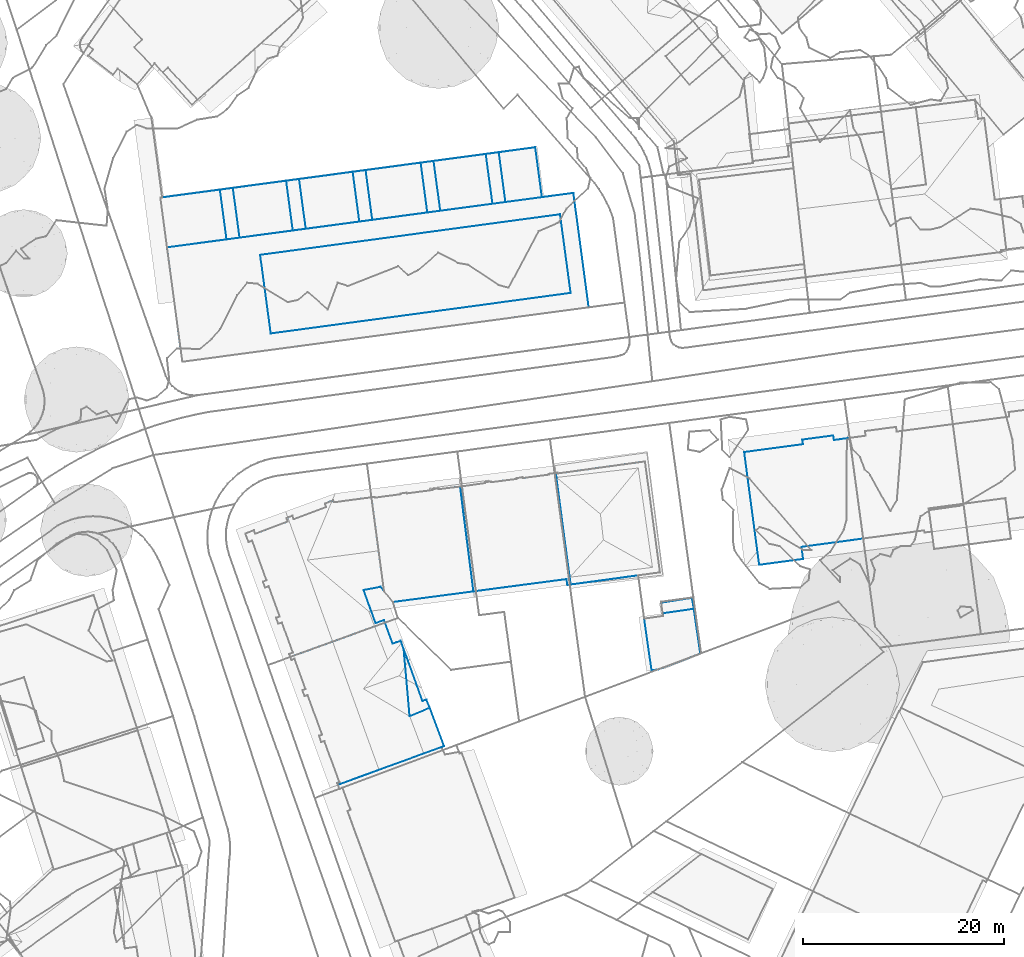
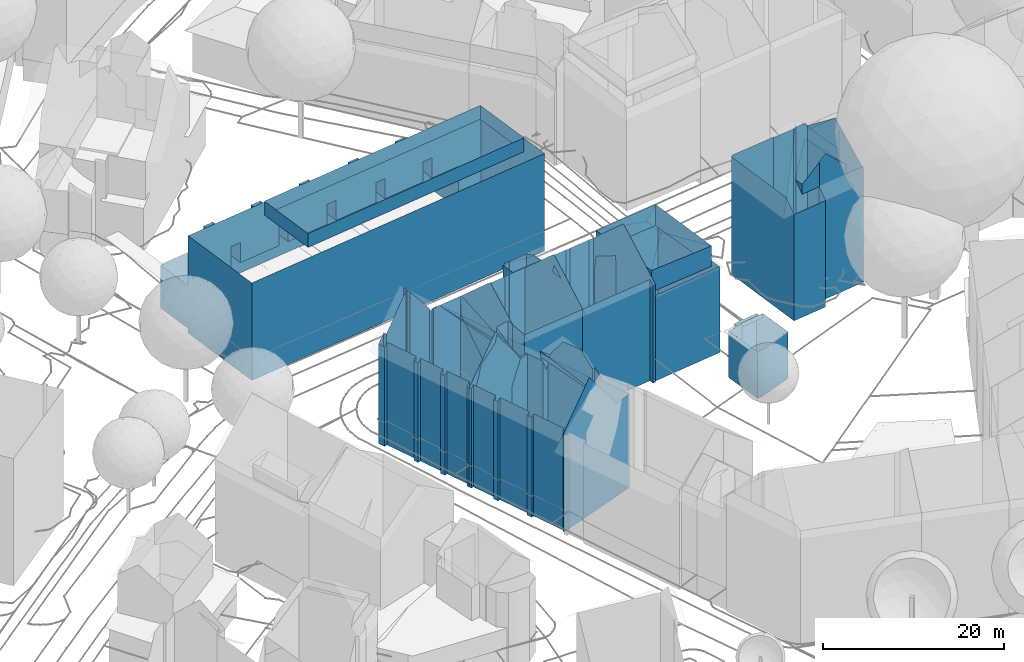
# Not in any storey, part 47 of 477: 8 walls.
"""IFC4 building model written with IfcOpenShell, lengths in metres."""

from ifc_helpers import new_model, si_unit, frame, origin_with_axes, place, context, subcontext, project, spatial, polygons, element, save


model = new_model("IFC4")

# Units and contexts
model_context = context("Model", 3, precision=1e-05, world=origin_with_axes())
body_context = subcontext(model_context, "Body", "Model", "MODEL_VIEW")
ifc_project = project(units=[si_unit("AREAUNIT", "SQUARE_METRE"), si_unit("LENGTHUNIT", "METRE")], contexts=[model_context])

# Sites, building
site_1_placement = place(None, origin_with_axes())
site_1 = spatial("IfcSite", under=ifc_project, at=site_1_placement, Name="Topoexport Site")
site_2_placement = place(site_1_placement, origin_with_axes())
site_2 = spatial("IfcSite", under=site_1, at=site_2_placement, Name="TPX_BUILDINGS")
building_1_placement = place(site_2_placement, frame((511.1767320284, 156.3465160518, 499.6435), z_axis=(0.0, 0.0, 1.0), x_axis=(1.0, 0.0, 0.0)))
building_1 = spatial("IfcBuilding", under=site_2, at=building_1_placement, Name="Building 19", CompositionType="ELEMENT")

# Wall
wall_1_placement = place(None, frame((511.1767320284, 156.3465160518, 499.6435), z_axis=(0.0, 0.0, 1.0), x_axis=(1.0, 0.0, 0.0)))
element("IfcWall", 1, at=wall_1_placement, inside=building_1, Name="Wall 0", context=body_context, shape_type="Tessellation", body=[
    polygons([(4.7589999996, 2.067400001, 0.0), (4.936999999, 0.9834000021, 5.7095), (4.7589999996, 2.067400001, 5.7095), (1.6939999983, 1.5859000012, 0.0), (1.6939999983, 1.5859000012, 5.7095), (5.5879999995, -3.4745999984, 0.0), (1.3649999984, -5.058600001, 6.2974), (5.5879999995, -3.4745999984, 6.2974), (4.936999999, 0.9834000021, 6.2974), (4.936999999, 0.9834000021, 0.0), (0.0, 0.0, 0.0), (1.8829999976, 0.2714999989, 6.2974), (0.0, 0.0, 6.2974), (0.7419999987, -5.1475000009, 0.0), (0.7419999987, -5.1475000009, 6.2974), (1.3649999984, -5.058600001, 0.0), (1.8449999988, 0.5322000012, 5.7095), (1.8449999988, 0.5322000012, 6.2974), (1.8829999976, 0.2714999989, 0.0), (1.8469999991, 0.5243999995, 0.0), (1.8449999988, 0.5322000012, 0.0)], [[[3, 2, 1]], [[5, 3, 4]], [[8, 7, 6]], [[2, 9, 8]], [[2, 6, 10]], [[13, 12, 11]], [[15, 13, 14]], [[7, 15, 16]], [[18, 9, 17]], [[12, 17, 19]], [[17, 12, 18]], [[20, 19, 17]], [[17, 21, 20]], [[5, 21, 17]], [[4, 21, 5]], [[2, 10, 1]], [[3, 1, 4]], [[7, 16, 6]], [[8, 6, 2]], [[12, 19, 11]], [[13, 11, 14]], [[15, 14, 16]], [[9, 2, 17]]]),
])

# Building
building_2_placement = place(site_2_placement, frame((521.1327320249, 172.9256160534, 499.9965), z_axis=(0.0, 0.0, 1.0), x_axis=(1.0, 0.0, 0.0)))
building_2 = spatial("IfcBuilding", under=site_2, at=building_2_placement, Name="Building 36", CompositionType="ELEMENT")

# Wall
wall_2_placement = place(None, frame((521.1327320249, 172.9256160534, 499.9965), z_axis=(0.0, 0.0, 1.0), x_axis=(1.0, 0.0, 0.0)))
element("IfcWall", 2, at=wall_2_placement, inside=building_2, Name="Wall 0", context=body_context, shape_type="Tessellation", body=[
    polygons([(9.4190000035, -8.933600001, 15.6275), (9.4190000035, -8.933600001, 16.8814), (9.2630000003, -7.7666000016, 16.8814), (3.3460000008, -9.8164000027, 15.5525), (3.1810000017, -8.5811000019, 16.8814), (3.3460000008, -9.8164000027, 16.8814), (5.7130000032, -9.5020000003, 18.8402), (5.7130000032, -9.5020000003, 15.5515), (5.8660000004, -10.6377000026, 0.0), (1.4970000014, -11.2217000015, 14.3306), (5.8660000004, -10.6377000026, 14.3306), (8.870000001, 1.6561999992, 15.4745), (8.9310000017, 1.2010999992, 0.0), (8.9310000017, 1.2010999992, 3.9956), (8.870000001, 1.6561999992, 0.0), (5.7780000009, 1.2412, 0.0), (5.7780000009, 1.2412, 15.4765), (5.7040000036, -9.4326000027, 15.6235), (5.7040000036, -9.4326000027, 18.8402), (5.7130000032, -9.5020000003, 0.0), (5.7040000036, -9.4326000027, 0.0), (1.4970000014, -11.2217000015, 0.0), (1.325000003, -9.9365000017, 0.0), (0.0, 0.0, 0.0), (0.0, 0.0, 15.8225), (1.3120000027, -9.8368999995, 15.8195), (10.4960000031, 1.4111000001, 15.4685), (10.4960000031, 1.4111000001, 15.5445), (10.0990000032, 1.3583999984, 15.9835), (8.9310000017, 1.2011999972, 15.9845), (10.4960000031, 1.4111000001, 0.0), (10.0990000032, 1.3583999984, 0.0), (5.8390000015, 0.7850999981, 15.9875), (0.1640000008, 0.0223999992, 15.9915), (5.8390000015, 0.7850999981, 0.0), (11.8110000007, -8.3280999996, 15.5305), (11.1740000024, -3.6064999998, 0.0), (11.8490000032, -8.6064999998, 15.5295), (11.8490000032, -8.6064999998, 0.0), (10.5090000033, 1.3134999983, 15.5445), (11.1740000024, -3.6064999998, 19.3361), (11.7590000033, -8.6192000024, 15.6295), (6.6170000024, -9.3095999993, 19.5961), (6.6170000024, -9.3095999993, 0.0)], [[[3, 2, 1]], [[6, 5, 4]], [[8, 7, 4]], [[6, 4, 7]], [[11, 10, 9]], [[14, 13, 12]], [[12, 13, 15]], [[17, 12, 16]], [[16, 12, 15]], [[19, 7, 18]], [[18, 7, 8]], [[8, 11, 20]], [[20, 21, 18]], [[20, 11, 9]], [[20, 18, 8]], [[23, 22, 10]], [[25, 24, 23]], [[10, 26, 25]], [[10, 25, 23]], [[29, 28, 27]], [[27, 30, 29]], [[14, 30, 31]], [[14, 32, 13]], [[32, 14, 31]], [[30, 27, 31]], [[33, 24, 25]], [[25, 34, 33]], [[33, 35, 24]], [[27, 36, 31]], [[38, 37, 31]], [[38, 39, 37]], [[27, 28, 40]], [[40, 41, 36]], [[38, 31, 36]], [[36, 27, 40]], [[1, 38, 42]], [[1, 39, 38]], [[1, 2, 18]], [[18, 2, 43]], [[18, 43, 19]], [[1, 18, 44]], [[18, 21, 44]], [[1, 44, 39]], [[10, 22, 9]], [[30, 14, 12]], [[33, 16, 35]], [[17, 16, 33]]]),
])

# Building
building_3_placement = place(site_2_placement, frame((463.0307320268, 198.249816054, 500.4205), z_axis=(0.0, 0.0, 1.0), x_axis=(1.0, 0.0, 0.0)))
building_3 = spatial("IfcBuilding", under=site_2, at=building_3_placement, Name="Building 89", CompositionType="ELEMENT")

# Wall
wall_3_placement = place(None, frame((463.0307320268, 198.249816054, 500.4205), z_axis=(0.0, 0.0, 1.0), x_axis=(1.0, 0.0, 0.0)))
element("IfcWall", 3, at=wall_3_placement, inside=building_3, Name="Wall 0", context=body_context, shape_type="Tessellation", body=[
    polygons([(42.6259999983, -10.9238000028, -0.615), (2.1889999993, -16.3369000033, 12.5258), (42.6259999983, -10.9238000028, 12.5258), (41.1009999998, 0.4667999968, -0.6149), (41.1009999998, 0.4667999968, 12.5258), (37.300999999, 5.0058999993, 0.0), (37.9649999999, 0.0468999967, 5.7815), (37.300999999, 5.0058999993, 5.7815), (6.5870000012, -4.1562000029, -0.041), (5.9239999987, 0.7949000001, -0.041), (6.5870000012, -4.1562000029, 0.0), (6.5870000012, -4.1562000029, 5.7815), (5.9239999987, 0.7949000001, 8.4932), (6.5870000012, -4.1562000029, 8.4932), (7.2129999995, 0.9677999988, 5.7815), (7.8759999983, -3.9834000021, 5.7815), (7.2129999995, 0.9677999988, 8.4932), (7.2129999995, 0.9677999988, -0.041), (7.8759999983, -3.9834000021, 0.0), (7.2129999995, 0.9677999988, 0.0), (13.1790000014, -3.2734000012, -0.0108), (12.5159999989, 1.6796999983, 0.0002), (13.1790000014, -3.2734000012, 0.0002), (13.1790000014, -3.2734000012, 5.7815), (12.5159999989, 1.6796999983, 5.7815), (13.1790000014, -3.2734000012, 8.4932), (13.8040000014, 1.8524999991, 5.7815), (14.4679999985, -3.1006000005, 8.4932), (13.8040000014, 1.8524999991, 8.4932), (13.8040000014, 1.8524999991, -0.011), (14.4679999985, -3.1006000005, -0.011), (13.8040000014, 1.8524999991, 0.0), (40.8319999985, -9.4853000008, -0.6539), (10.9860000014, -13.5215000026, -0.6149), (40.8319999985, -9.4853000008, -0.6149), (40.8319999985, -9.4853000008, 12.5258), (10.9860000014, -13.5215000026, 14.3936), (40.8319999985, -9.4853000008, 14.3936), (39.7729999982, -1.6601999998, -0.6539), (39.7729999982, -1.6601999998, -0.6149), (39.7729999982, -1.6601999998, 12.5258), (39.7729999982, -1.6601999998, 14.3936), (9.9279999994, -5.6982000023, 12.5258), (9.9279999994, -5.6982000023, 14.3936), (9.9279999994, -5.6983000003, -0.6539), (9.9279999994, -5.6983000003, -0.6149), (10.9860000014, -13.5215000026, -0.6539), (10.9860000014, -13.5215000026, 12.5258), (26.5670000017, -1.4805000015, 5.7815), (25.9030000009, 3.4755999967, 8.4932), (26.5670000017, -1.4805000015, 8.4932), (26.5670000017, -1.4805000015, -0.056), (25.9030000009, 3.4755999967, -0.056), (26.5670000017, -1.4805000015, 0.0), (27.1909999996, 3.6483999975, 5.7815), (27.8550000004, -1.3066000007, 5.7815), (27.1909999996, 3.6483999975, 8.4932), (27.1909999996, 3.6483999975, -0.056), (27.8550000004, -1.3066000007, 0.0), (27.1909999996, 3.6483999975, 0.0), (33.0500000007, -0.6113000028, 5.7815), (32.3859999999, 4.3456999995, 8.4932), (33.0500000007, -0.6113000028, 8.4932), (33.6750000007, 4.5185999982, 5.7815), (34.3390000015, -0.4394000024, 5.7815), (33.6750000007, 4.5185999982, 8.4932), (19.8000000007, -2.3857000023, 5.7815), (19.1369999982, 2.5683999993, 8.4932), (19.8000000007, -2.3857000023, 8.4932), (19.8000000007, -2.3857000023, -0.046), (19.1369999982, 2.5683999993, -0.046), (19.8000000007, -2.3857000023, 0.0), (20.425999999, 2.7412, 5.7815), (21.0890000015, -2.2129000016, 5.7815), (20.425999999, 2.7412, 8.4932), (20.425999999, 2.7412, -0.046), (21.0890000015, -2.2129000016, 0.0), (20.425999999, 2.7412, 0.0), (2.1889999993, -16.3369000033, -0.6149), (0.6629999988, -4.9492000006, 5.7815), (0.6629999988, -4.9492000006, -0.6149), (0.6629999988, -4.9492000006, 0.0), (0.6629999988, -4.9492000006, 12.5258), (0.0, 0.0, 0.0), (0.0, 0.0, 5.7815), (7.8759999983, -3.9834000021, 8.4932), (14.4679999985, -3.1006000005, 5.7815), (7.8759999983, -3.9834000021, -0.041), (14.4679999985, -3.1006000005, 0.0), (21.0890000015, -2.2129000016, 8.4932), (27.8550000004, -1.3066000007, 8.4932), (34.3390000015, -0.4394000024, 8.4932), (21.0890000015, -2.2129000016, -0.046), (27.8550000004, -1.3066000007, -0.056), (37.9649999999, 0.0468999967, 0.0), (5.9239999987, 0.7949000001, 0.0), (5.9239999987, 0.7949000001, 5.7815), (12.5159999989, 1.6796999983, 8.4932), (19.1369999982, 2.5683999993, 5.7815), (25.9030000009, 3.4755999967, 0.0), (25.9030000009, 3.4755999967, 5.7815), (32.3859999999, 4.3456999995, 5.7815), (19.1369999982, 2.5683999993, 0.0), (12.5159999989, 1.6796999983, -0.011)], [[[3, 2, 1]], [[5, 3, 4]], [[8, 7, 6]], [[11, 10, 9]], [[14, 13, 12]], [[17, 16, 15]], [[20, 19, 18]], [[23, 22, 21]], [[26, 25, 24]], [[29, 28, 27]], [[32, 31, 30]], [[35, 34, 33]], [[38, 37, 36]], [[40, 35, 39]], [[42, 38, 41]], [[44, 42, 43]], [[46, 40, 45]], [[34, 46, 47]], [[37, 44, 48]], [[51, 50, 49]], [[54, 53, 52]], [[57, 56, 55]], [[60, 59, 58]], [[63, 62, 61]], [[66, 65, 64]], [[69, 68, 67]], [[72, 71, 70]], [[75, 74, 73]], [[78, 77, 76]], [[80, 79, 2]], [[79, 82, 81]], [[80, 82, 79]], [[2, 83, 80]], [[85, 84, 82]], [[82, 80, 85]], [[83, 14, 80]], [[14, 83, 86]], [[14, 12, 80]], [[83, 26, 86]], [[28, 26, 83]], [[69, 28, 83]], [[67, 87, 28]], [[16, 86, 24]], [[28, 69, 67]], [[83, 5, 69]], [[82, 11, 9]], [[81, 9, 88]], [[9, 81, 82]], [[81, 88, 21]], [[19, 21, 88]], [[31, 89, 72]], [[81, 31, 70]], [[21, 31, 81]], [[23, 21, 19]], [[70, 31, 72]], [[90, 51, 74]], [[91, 51, 5]], [[51, 49, 74]], [[51, 90, 5]], [[5, 92, 63]], [[92, 5, 7]], [[63, 61, 91]], [[61, 56, 91]], [[5, 4, 7]], [[5, 63, 91]], [[90, 69, 5]], [[7, 65, 92]], [[77, 54, 93]], [[81, 70, 93]], [[81, 93, 52]], [[59, 95, 94]], [[95, 81, 94]], [[81, 95, 4]], [[94, 81, 52]], [[7, 4, 95]], [[17, 15, 13]], [[97, 96, 85]], [[15, 20, 97]], [[29, 25, 98]], [[27, 99, 32]], [[32, 22, 27]], [[25, 22, 15]], [[10, 20, 18]], [[32, 30, 22]], [[73, 78, 99]], [[99, 68, 73]], [[101, 100, 73]], [[57, 55, 50]], [[66, 64, 62]], [[55, 102, 60]], [[55, 60, 101]], [[78, 71, 103]], [[53, 60, 58]], [[64, 8, 6]], [[60, 102, 6]], [[102, 64, 6]], [[2, 79, 1]], [[3, 1, 4]], [[7, 95, 6]], [[96, 10, 11]], [[13, 97, 12]], [[86, 16, 17]], [[19, 88, 18]], [[22, 104, 21]], [[98, 25, 26]], [[28, 87, 27]], [[89, 31, 32]], [[34, 47, 33]], [[37, 48, 36]], [[35, 33, 39]], [[38, 36, 41]], [[42, 41, 43]], [[40, 39, 45]], [[46, 45, 47]], [[44, 43, 48]], [[50, 101, 49]], [[100, 53, 54]], [[91, 56, 57]], [[59, 94, 58]], [[62, 102, 61]], [[92, 65, 66]], [[68, 99, 67]], [[103, 71, 72]], [[90, 74, 75]], [[77, 93, 76]], [[86, 26, 24]], [[54, 52, 93]], [[15, 97, 13]], [[96, 84, 85]], [[20, 96, 97]], [[27, 25, 29]], [[99, 103, 32]], [[22, 25, 27]], [[22, 20, 15]], [[96, 20, 10]], [[30, 104, 22]], [[78, 103, 99]], [[68, 75, 73]], [[100, 78, 73]], [[55, 101, 50]], [[64, 102, 62]], [[60, 100, 101]], [[76, 71, 78]], [[100, 60, 53]]]),
])

# Building
building_4_placement = place(site_2_placement, frame((475.9607320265, 152.5359160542, 499.4976), z_axis=(0.0, 0.0, 1.0), x_axis=(1.0, 0.0, 0.0)))
building_4 = spatial("IfcBuilding", under=site_2, at=building_4_placement, Name="Building 127", CompositionType="ELEMENT")

# Wall
wall_4_placement = place(None, frame((475.9607320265, 152.5359160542, 499.4976), z_axis=(0.0, 0.0, 1.0), x_axis=(1.0, 0.0, 0.0)))
element("IfcWall", 4, at=wall_4_placement, inside=building_4, Name="Wall 0", context=body_context, shape_type="Tessellation", body=[
    polygons([(1.7280000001, -3.7851000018, 0.0), (3.1640000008, -7.7363000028, 13.7726), (3.1640000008, -7.7363000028, -0.0001), (2.8570000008, -7.8486000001, -0.0001), (2.8570000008, -7.8486000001, 13.3947), (3.0800000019, -8.4716000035, 13.3907), (3.0800000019, -8.4716000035, -0.0001), (3.3900000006, -8.3584000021, -0.0001), (3.3900000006, -8.3584000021, 13.7726), (4.8859999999, -12.4658000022, -0.0001), (4.8859999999, -12.4658000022, 13.7726), (4.675999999, -12.5449000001, 13.5136), (4.675999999, -12.5449000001, -0.0001), (4.7390000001, -12.7187000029, 6.7563), (4.7390000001, -12.7187000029, -0.0001), (4.7390000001, -12.7187000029, 13.5126), (0.1050000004, -0.2890000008, 0.0), (0.0529999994, -0.1474000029, 5.6504), (0.1050000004, -0.2890000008, 13.3947), (0.0, 0.0, 0.0), (0.4149999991, -0.1757000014, 13.7766), (0.4149999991, -0.1757000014, 0.0), (1.5159999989, -3.2021000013, 0.0), (1.5159999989, -3.2021000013, 13.7756), (1.2060000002, -3.3154000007, 13.3937), (1.2060000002, -3.3154000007, 0.0), (1.4180000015, -3.8984000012, 13.3937), (1.4180000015, -3.8984000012, 0.0), (1.7280000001, -3.7851000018, 13.7756), (9.4239999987, 3.4130999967, 0.0), (9.7309999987, 2.5634999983, 5.8984), (9.4239999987, 3.4130999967, 12.5967), (10.1799999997, 1.3242999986, 12.5807), (10.1799999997, 1.3242999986, 0.0), (11.870000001, -5.8955000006, -0.0001), (11.2809999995, 0.8017999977, 0.0669), (11.2809999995, 0.8017999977, 0.0), (11.870000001, -5.8955000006, 0.0669), (13.8729999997, -5.0605000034, 0.0669), (15.3020000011, -8.875, 12.6027), (13.8729999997, -5.0605000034, 12.6027), (13.8729999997, -5.0605000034, -0.0001), (15.3020000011, -8.875, -0.0001), (13.5419999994, -4.2285000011, 0.0669), (13.5419999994, -4.2285000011, 13.9276), (13.8729999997, -5.0605000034, 12.9307), (7.2580000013, -3.1503000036, 17.7112), (11.870000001, -5.8955000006, 12.7847), (11.870000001, -5.8955000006, 12.5307), (7.2580000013, -3.1503000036, 16.9023), (8.8300000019, -1.2646000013, 14.1886), (11.0599999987, 1.4120999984, 13.0807), (10.6689999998, 0.9423999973, 12.5767), (11.0599999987, 1.4120999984, 12.5957), (9.6680000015, -0.2578000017, 12.5737), (10.5769999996, 1.4677999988, 12.5797), (10.5769999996, 1.4677999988, 0.0), (10.9860000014, 1.6162, 12.5957), (10.9860000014, 1.6162, 0.0), (13.2010000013, -4.3515000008, 13.9976), (13.1519999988, -4.3691000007, 13.9966), (13.1519999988, -4.3691000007, 0.0669), (13.2010000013, -4.3515000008, 0.0669), (8.8150000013, -11.2343000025, 18.5302), (10.5179999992, -10.6123000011, 16.1894), (15.0579999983, -8.9638000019, 12.6027), (13.2730000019, -9.6113000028, 12.5027), (15.0579999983, -8.9638000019, -0.0001), (8.8150000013, -11.2343000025, -0.0001), (10.5179999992, -10.6123000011, -0.0001), (13.2730000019, -9.6113000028, -0.0001), (1.7479999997, 0.6328999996, 15.5465), (0.0, 0.0, 13.3957), (4.2050000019, 1.5224999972, 18.5252), (4.2050000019, 1.5224999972, 0.0), (4.4210000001, 1.6005999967, 18.2632), (1.7479999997, 0.6327999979, 0.0), (4.4210000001, 1.6005999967, 0.0), (8.3819999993, 3.0361999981, 12.5987), (6.4640000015, 2.3408999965, 15.4795), (6.4640000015, 2.3408999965, 0.0), (8.3819999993, 3.0361999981, 0.0), (11.1600000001, 1.1338, 13.5437), (11.7259999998, -0.4287, 0.0669), (11.7259999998, -0.4287, 15.7334), (12.5850000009, -2.8017000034, 15.8534), (12.5850000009, -2.8017000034, 0.0669), (13.1119999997, -4.2578000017, 14.1386)], [[[3, 2, 1]], [[5, 2, 4]], [[2, 3, 4]], [[5, 7, 6]], [[9, 7, 8]], [[11, 9, 10]], [[9, 8, 10]], [[11, 10, 12]], [[13, 12, 10]], [[15, 14, 13]], [[16, 13, 14]], [[19, 18, 17]], [[18, 20, 17]], [[22, 21, 17]], [[19, 17, 21]], [[24, 21, 23]], [[22, 23, 21]], [[25, 24, 23]], [[26, 25, 23]], [[28, 27, 25]], [[1, 29, 28]], [[29, 27, 28]], [[32, 31, 30]], [[33, 31, 32]], [[31, 33, 34]], [[31, 34, 30]], [[37, 36, 35]], [[38, 35, 36]], [[41, 40, 39]], [[39, 43, 42]], [[45, 41, 44]], [[46, 41, 45]], [[35, 38, 39]], [[39, 42, 35]], [[49, 48, 47]], [[47, 50, 49]], [[46, 48, 41]], [[47, 51, 50]], [[51, 47, 52]], [[52, 54, 53]], [[55, 51, 53]], [[53, 51, 52]], [[34, 33, 56]], [[56, 58, 57]], [[57, 58, 59]], [[57, 34, 56]], [[62, 61, 60]], [[62, 60, 45]], [[63, 62, 45]], [[44, 63, 45]], [[65, 64, 16]], [[43, 40, 66]], [[67, 65, 16]], [[67, 68, 66]], [[67, 16, 14]], [[14, 15, 69]], [[14, 69, 70]], [[66, 68, 43]], [[71, 67, 70]], [[71, 68, 67]], [[14, 70, 67]], [[20, 73, 72]], [[75, 72, 74]], [[76, 75, 74]], [[77, 20, 72]], [[72, 75, 77]], [[76, 78, 75]], [[81, 80, 79]], [[82, 79, 32]], [[78, 80, 81]], [[82, 32, 30]], [[82, 81, 79]], [[80, 78, 76]], [[52, 83, 54]], [[36, 54, 84]], [[58, 54, 59]], [[36, 37, 59]], [[54, 36, 59]], [[54, 83, 85]], [[87, 85, 86]], [[87, 86, 88]], [[87, 88, 61]], [[84, 85, 87]], [[62, 87, 61]], [[85, 84, 54]], [[29, 1, 2]], [[5, 4, 7]], [[6, 7, 9]], [[12, 13, 16]], [[73, 18, 19]], [[18, 73, 20]], [[28, 25, 26]], [[40, 43, 39]], [[41, 39, 44]], [[48, 49, 41]]]),
])

# Building
building_5_placement = place(site_2_placement, frame((502.3847320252, 170.8484160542, 499.6645), z_axis=(0.0, 0.0, 1.0), x_axis=(1.0, 0.0, 0.0)))
building_5 = spatial("IfcBuilding", under=site_2, at=building_5_placement, Name="Building 128", CompositionType="ELEMENT")

# Wall
wall_5_placement = place(None, frame((502.3847320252, 170.8484160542, 499.6645), z_axis=(0.0, 0.0, 1.0), x_axis=(1.0, 0.0, 0.0)))
element("IfcWall", 5, at=wall_5_placement, inside=building_5, Name="Wall 0", context=body_context, shape_type="Tessellation", body=[
    polygons([(8.1840000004, 0.5068999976, 11.5429), (9.6030000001, -9.3867000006, 14.3126), (8.1840000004, 0.5068999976, 14.3977), (9.1490000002, -9.4404000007, 11.5609), (9.6030000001, -9.3867000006, 11.5619), (1.3839999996, -10.3593000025, 11.5409), (1.3839999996, -10.3593000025, 14.4626), (7.1860000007, 0.3925999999, 11.5399), (0.0580000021, -0.4316000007, 14.3047), (0.0580000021, -0.4316000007, 11.5229), (9.9960000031, -7.1357000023, 11.5599), (8.8770000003, 1.1435999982, 11.5439), (10.3690000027, -9.8964000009, 0.0), (8.8770000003, 1.1435999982, 5.7615), (8.8770000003, 1.1435999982, 8.6522), (8.8770000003, 1.1435999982, 0.0), (10.3690000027, -9.8964000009, 5.7825), (10.3690000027, -9.8964000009, 2.8907), (0.1810000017, -0.0556000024, 11.5229), (0.1700000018, 0.0244999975, 11.5219), (0.1810000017, -0.0556000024, 5.7615), (0.1700000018, 0.0244999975, 0.0), (0.1810000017, -0.0556000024, 0.0), (0.0, 9.9998e-05, 8.6412), (0.0, 9.9998e-05, 11.5219), (0.0, 0.0, 0.0), (0.0, 0.0, 5.7605), (1.4840000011, -11.1054000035, 11.5429), (10.3690000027, -9.8964000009, 8.6732), (1.4840000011, -11.1054000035, 0.0), (8.0549999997, -10.2119000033, 11.5589), (8.0549999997, -10.2119000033, 0.0), (10.3690000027, -9.8964000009, 11.5649), (0.7130000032, -5.3320000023, 14.3827), (1.3839999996, -10.3593000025, 0.0), (0.7130000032, -5.3320000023, 0.0), (0.0580000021, -0.4316000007, 0.0), (2.6920000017, 0.2900999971, 11.5289), (2.6920000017, 0.2900999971, 0.0), (7.881000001, 1.0058999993, 11.5409), (7.881000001, 1.0058999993, 0.0)], [[[3, 2, 1]], [[5, 2, 4]], [[4, 7, 6]], [[7, 4, 2]], [[10, 9, 8]], [[8, 3, 1]], [[3, 8, 9]], [[13, 12, 11]], [[15, 13, 14]], [[16, 14, 13]], [[18, 11, 17]], [[21, 20, 19]], [[20, 23, 22]], [[25, 22, 24]], [[27, 22, 26]], [[25, 20, 22]], [[17, 29, 28]], [[18, 17, 30]], [[28, 29, 31]], [[17, 28, 30]], [[13, 18, 32]], [[32, 18, 30]], [[29, 33, 31]], [[6, 7, 34]], [[30, 6, 35]], [[6, 30, 28]], [[36, 35, 6]], [[6, 34, 36]], [[34, 27, 36]], [[10, 25, 24]], [[9, 10, 34]], [[27, 37, 36]], [[34, 24, 27]], [[27, 26, 37]], [[34, 10, 24]], [[38, 21, 19]], [[39, 21, 14]], [[39, 23, 21]], [[40, 12, 15]], [[38, 40, 15]], [[16, 41, 14]], [[41, 39, 14]], [[38, 15, 14]], [[14, 21, 38]], [[2, 5, 1]], [[12, 13, 15]], [[33, 29, 11]], [[29, 17, 11]], [[13, 11, 18]], [[21, 23, 20]], [[27, 24, 22]]]),
])

# Building
building_6_placement = place(site_2_placement, frame((484.0377320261, 168.4207160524, 499.5076), z_axis=(0.0, 0.0, 1.0), x_axis=(1.0, 0.0, 0.0)))
building_6 = spatial("IfcBuilding", under=site_2, at=building_6_placement, Name="Building 129", CompositionType="ELEMENT")

# Wall
wall_6_placement = place(None, frame((484.0377320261, 168.4207160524, 499.5076), z_axis=(0.0, 0.0, 1.0), x_axis=(1.0, 0.0, 0.0)))
element("IfcWall", 6, at=wall_6_placement, inside=building_6, Name="Wall 0", context=body_context, shape_type="Tessellation", body=[
    polygons([(2.1359999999, -10.4189000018, 0.0), (1.251000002, -9.3192999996, 0.0), (2.1359999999, -10.4189000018, 13.6186), (3.5100000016, 0.4648000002, 13.2597), (3.5100000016, 0.4648000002, 0.0), (3.5210000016, 0.3856999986, 0.0), (3.5210000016, 0.3856999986, 13.3317), (2.8850000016, 0.3817999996, 13.2617), (2.8850000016, 0.3817999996, 0.0), (2.8949999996, 0.3027000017, 13.3337), (2.8949999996, 0.3027000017, 0.0), (1.6170000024, 0.1338, 13.3377), (0.3379999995, -0.0361000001, 13.3417), (0.3379999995, -0.0361000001, 0.0), (0.3280000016, 0.0430000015, 13.2687), (0.3280000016, 0.0430000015, 0.0), (0.0, 0.0, 9.952), (0.1440000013, 0.0185999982, 13.2687), (0.0, 0.0, 13.2697), (0.0, 0.0, 3.3177), (0.0, 0.0, 6.6353), (0.0, 0.0, 0.0), (9.3680000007, -1.5967000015, 0.3679), (9.1700000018, -1.6893999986, 0.3679), (9.3680000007, -1.5967000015, 15.7974), (6.0760000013, 0.7236000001, 0.0), (6.0659999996, 0.8027000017, 15.0785), (6.068, 0.7842000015, 15.0875), (6.0, -1.1035000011, 14.9625), (6.0, -1.1035000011, 15.0195), (9.1700000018, -1.6893999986, 15.8574), (5.9869999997, -0.996100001, 14.8635), (5.7919999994, 0.6856000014, 13.3257), (5.7919999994, 0.6856000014, 15.0105), (10.1469999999, -9.3623000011, 0.0), (3.6469999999, -10.2197000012, 13.6206), (10.1469999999, -9.3623000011, 13.6296), (3.6469999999, -10.2197000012, 0.0), (6.0760000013, 0.7236000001, 15.0875), (0.0170000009, -0.1240000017, 13.3837), (1.251000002, -9.3192999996, 14.6436), (0.7120000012, -5.3027000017, 18.0912), (0.7120000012, -5.3027000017, 0.0), (8.819000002, 1.0683999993, 0.3679), (6.7010000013, 0.8066000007, 0.0), (8.819000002, 1.0683999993, 0.0), (6.7010000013, 0.8066000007, 15.1145), (9.0109999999, 1.0918000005, 0.3679), (9.0109999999, 1.0918000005, 15.1255), (6.6909999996, 0.8856999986, 15.0795), (6.6909999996, 0.8856999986, 0.0), (6.0659999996, 0.8027000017, 0.0), (9.2120000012, -0.4219000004, 0.3679), (9.2309999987, -0.5683999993, 0.3679), (9.2120000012, -0.4219000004, 15.7874), (9.8790000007, -7.2606999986, 15.4335), (9.4840000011, -4.1561999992, 18.0972), (9.1400000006, -1.4560000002, 0.0), (9.4840000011, -4.1561999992, 0.0), (9.8790000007, -7.2606999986, 0.0)], [[[3, 2, 1]], [[6, 5, 4]], [[4, 7, 6]], [[9, 8, 5]], [[9, 11, 10]], [[10, 8, 9]], [[10, 11, 12]], [[12, 11, 13]], [[13, 11, 14]], [[16, 15, 13]], [[13, 14, 16]], [[19, 18, 17]], [[21, 18, 20]], [[15, 16, 18]], [[18, 16, 22]], [[25, 24, 23]], [[28, 27, 26]], [[31, 30, 29]], [[29, 30, 32]], [[32, 34, 33]], [[34, 32, 30]], [[37, 36, 35]], [[35, 36, 38]], [[38, 3, 1]], [[3, 38, 36]], [[6, 7, 26]], [[34, 39, 33]], [[7, 33, 26]], [[26, 33, 39]], [[2, 40, 17]], [[42, 40, 41]], [[41, 40, 2]], [[40, 19, 17]], [[2, 21, 43]], [[43, 21, 20]], [[20, 22, 43]], [[21, 2, 17]], [[46, 45, 44]], [[44, 45, 47]], [[44, 49, 48]], [[49, 44, 47]], [[45, 51, 50]], [[50, 47, 45]], [[39, 28, 26]], [[52, 26, 27]], [[52, 27, 51]], [[50, 51, 27]], [[54, 53, 25]], [[23, 54, 25]], [[53, 48, 49]], [[55, 25, 49]], [[49, 25, 53]], [[31, 57, 56]], [[31, 56, 37]], [[46, 44, 58]], [[24, 31, 37]], [[37, 60, 59]], [[37, 59, 24]], [[58, 24, 59]], [[24, 58, 44]], [[60, 37, 35]], [[41, 2, 3]], [[4, 5, 8]], [[21, 17, 18]], [[18, 22, 20]], [[31, 24, 25]]]),
])

# Building
building_7_placement = place(site_2_placement, frame((492.8567320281, 169.4891160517, 499.5076), z_axis=(0.0, 0.0, 1.0), x_axis=(1.0, 0.0, 0.0)))
building_7 = spatial("IfcBuilding", under=site_2, at=building_7_placement, Name="Building 130", CompositionType="ELEMENT")

# Wall
wall_7_placement = place(None, frame((492.8567320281, 169.4891160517, 499.5076), z_axis=(0.0, 0.0, 1.0), x_axis=(1.0, 0.0, 0.0)))
element("IfcWall", 7, at=wall_7_placement, inside=building_7, Name="Wall 0", context=body_context, shape_type="Tessellation", body=[
    polygons([(0.6649999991, -5.2245999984, 0.0), (0.3209999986, -2.5244999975, 15.6455), (0.6649999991, -5.2245999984, 18.0972), (0.0, 0.0, 0.0), (0.1919999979, 0.0234000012, 13.3357), (0.0, 0.0, 13.3347), (0.3209999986, -2.5243999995, 0.0), (9.5859999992, 0.9277000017, 0.0), (10.2410000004, -3.9726999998, 0.0), (9.5859999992, 0.9277000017, 13.6147), (3.6909999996, 0.5078000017, 13.3067), (3.106999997, 0.4306000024, 13.3087), (3.106999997, 0.4306000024, 0.0), (3.0969999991, 0.5097000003, 13.2347), (2.4719999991, 0.4266999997, 0.0), (2.4719999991, 0.4266999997, 13.2377), (2.481999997, 0.3476000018, 13.3107), (2.481999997, 0.3476000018, 0.0), (8.8369999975, 1.1884000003, 13.2797), (8.8259999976, 1.2685000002, 0.0), (8.8259999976, 1.2685000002, 13.2027), (6.2479999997, 0.8465999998, 0.0), (8.8369999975, 1.1884000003, 0.0), (6.237999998, 0.9257000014, 0.0), (6.237999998, 0.9257000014, 13.2167), (5.6339999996, 0.8456999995, 0.0), (5.6439999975, 0.7666000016, 0.0), (5.6439999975, 0.7666000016, 13.2957), (4.6879999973, 0.6396000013, 4.9845), (9.5279999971, 1.3593000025, 13.2007), (9.5279999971, 1.3593000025, 0.0), (9.4109999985, 1.3436999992, 0.0), (9.4109999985, 1.3436999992, 13.2017), (3.0969999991, 0.5097000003, 0.0), (1.5719999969, -10.3984999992, 0.0), (1.3279999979, -10.4307000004, 0.0), (1.3279999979, -10.4307000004, 13.6296), (3.8310000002, -10.0995999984, 13.6336), (8.3379999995, -9.504900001, 13.6406), (10.5939999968, -9.2071000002, 13.6436), (10.5939999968, -9.2071000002, -0.0001), (10.6739999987, -9.7919999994, 13.1417), (10.6739999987, -9.7919999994, -0.0001), (11.0119999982, -9.746100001, 13.1427), (11.0119999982, -9.746100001, -0.0001), (10.9119999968, -9.0, -0.0001), (10.9119999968, -9.0, 13.7836), (10.2410000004, -3.9726999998, 18.1042), (1.0599999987, -8.3290999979, 15.4335), (1.0599999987, -8.3290999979, 0.0), (0.1919999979, 0.0234000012, 0.0), (6.2479999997, 0.8465999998, 13.2927), (5.6339999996, 0.8456999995, 13.2207)], [[[3, 2, 1]], [[6, 5, 4]], [[2, 4, 7]], [[6, 4, 2]], [[10, 9, 8]], [[13, 12, 11]], [[12, 13, 14]], [[17, 16, 15]], [[18, 17, 15]], [[21, 20, 19]], [[19, 23, 22]], [[25, 22, 24]], [[25, 24, 26]], [[28, 26, 27]], [[28, 27, 29]], [[29, 27, 13]], [[31, 30, 10]], [[8, 31, 10]], [[32, 30, 31]], [[32, 33, 30]], [[33, 20, 21]], [[14, 13, 34]], [[14, 15, 16]], [[14, 34, 15]], [[37, 36, 35]], [[39, 38, 35]], [[41, 40, 39]], [[35, 41, 39]], [[37, 35, 38]], [[43, 42, 40]], [[40, 41, 43]], [[42, 43, 44]], [[44, 43, 45]], [[47, 45, 46]], [[44, 45, 47]], [[48, 47, 9]], [[36, 37, 49]], [[50, 36, 49]], [[49, 1, 50]], [[2, 7, 1]], [[5, 51, 4]], [[48, 9, 10]], [[51, 5, 18]], [[18, 5, 17]], [[19, 20, 23]], [[22, 52, 19]], [[25, 52, 22]], [[53, 25, 26]], [[53, 26, 28]], [[11, 28, 29]], [[11, 29, 13]], [[33, 32, 20]], [[47, 46, 9]], [[3, 1, 49]]]),
])

# Building
building_8_placement = place(site_2_placement, frame((471.492732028, 164.8240160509, 499.4976), z_axis=(0.0, 0.0, 1.0), x_axis=(1.0, 0.0, 0.0)))
building_8 = spatial("IfcBuilding", under=site_2, at=building_8_placement, Name="Building 131", CompositionType="ELEMENT")

# Wall
wall_8_placement = place(None, frame((471.492732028, 164.8240160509, 499.4976), z_axis=(0.0, 0.0, 1.0), x_axis=(1.0, 0.0, 0.0)))
element("IfcWall", 8, at=wall_8_placement, inside=building_8, Name="Wall 0", context=body_context, shape_type="Tessellation", body=[
    polygons([(4.6769999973, 1.7657000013, 4.4796), (4.8090000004, 1.4151000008, 17.9143), (4.6769999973, 1.7657000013, 17.9183), (4.6769999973, 1.7657000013, 0.0), (4.8090000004, 1.4151000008, 0.0), (8.7479999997, 3.3027999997, 0.01), (8.5969999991, 3.246100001, 12.8647), (8.5969999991, 3.246100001, 0.0), (7.9039999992, 2.9834000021, 0.0), (7.9039999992, 2.9834000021, 13.7587), (8.0359999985, 2.6328000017, 13.7547), (8.0359999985, 2.6328000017, 0.0), (13.8919999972, -8.875, 12.5967), (13.7969999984, -8.6122999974, 12.5987), (13.7969999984, -8.6122999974, 0.0), (13.8919999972, -8.875, 0.0), (13.8919999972, -8.875, 3.1477), (12.9519999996, -8.9178999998, 12.6007), (12.9519999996, -8.9178999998, 0.0), (12.5149999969, -7.7030999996, 12.6097), (12.367999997, -7.2958999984, 2.2987), (12.5149999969, -7.7030999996, 0.0), (1.9560000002, -5.3778999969, 0.0), (1.743999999, -4.7949000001, 0.0), (1.9560000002, -5.3778999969, 13.3997), (2.3219999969, -5.245099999, 13.8506), (2.3219999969, -5.245099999, 0.0), (3.4189999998, -8.2626999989, 13.8486), (3.4189999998, -8.2626999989, 0.0), (3.0529999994, -8.3954999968, 13.3987), (3.0529999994, -8.3954999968, 0.0), (3.2679999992, -8.9872999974, 0.0), (3.6349999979, -8.8544999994, 13.8496), (3.2679999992, -8.9872999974, 13.3977), (4.3579999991, -11.985299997, 13.3957), (4.7249999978, -11.8524999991, 0.0), (4.7249999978, -11.8524999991, 13.8476), (4.3579999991, -11.985299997, 0.0), (4.4679999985, -12.2880999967, 6.6933), (4.4679999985, -12.2880999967, 0.0), (4.2099999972, 1.188500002, 0.0), (4.0779999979, 1.5401000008, 0.0), (4.0779999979, 1.5401000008, 18.3612), (2.193, 0.4268000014, 15.9095), (0.9829999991, -0.0301999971, 14.4346), (0.9829999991, -0.0301999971, 0.0), (3.4029999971, 0.8838, 17.3843), (0.8499999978, 0.3203000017, 0.0), (0.8499999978, 0.3203000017, 14.4276), (0.0, 0.0, 13.3917), (0.0, 0.0, 0.0), (0.3079999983, -0.8486000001, 13.3937), (0.3079999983, -0.8486000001, 0.0), (0.674999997, -0.7137999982, 0.0), (0.674999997, -0.7137999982, 13.8397), (2.1099999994, -4.6620999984, 10.387), (2.1099999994, -4.6620999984, 13.8496), (2.1099999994, -4.6620999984, 0.0), (4.2520000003, 1.6055000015, 18.4662), (4.2079999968, 1.5888999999, 18.5192), (4.2449999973, 1.6026000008, 0.0), (2.061999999, -4.6796999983, 13.7927), (1.743999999, -4.7949000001, 13.4007), (12.8499999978, -9.2518999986, 0.0), (10.932, -9.9472000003, 0.0), (8.8889999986, -10.6875, 0.0), (8.6730000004, -10.7655999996, 0.0), (6.2159999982, -11.6551999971, 0.0), (13.8919999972, -8.875, 9.448), (12.8499999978, -9.2518999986, 12.5987), (8.8889999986, -10.6875, 18.2632), (10.932, -9.9472000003, 15.4795), (6.2159999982, -11.6551999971, 15.5465), (8.6730000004, -10.7655999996, 18.5252), (4.4679999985, -12.2880999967, 10.047), (4.4679999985, -12.2880999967, 13.3957), (12.5149999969, -7.7030999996, 13.1227), (12.1409999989, -6.6639999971, 2.8297), (11.7669999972, -5.625, 0.01), (13.4649999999, -5.3104999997, 0.01), (13.7960000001, -5.7225999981, 14.6536), (13.7960000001, -5.7225999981, 10.8969), (13.4649999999, -5.3104999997, 15.0375), (13.7960000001, -5.7225999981, 0.01), (13.7960000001, -5.7225999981, 7.1403), (8.8090000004, 3.1016000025, 13.2837), (8.7479999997, 3.3027999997, 13.0967), (8.8090000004, 3.1016000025, 0.01), (8.5969999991, 3.246100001, 13.1307), (11.7669999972, -5.625, 14.9575), (12.106999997, 3.5391000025, 0.01), (12.5449999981, 3.5967000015, 13.2797), (12.106999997, 3.5391000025, 13.2807), (12.5449999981, 3.5967000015, 0.01), (12.561999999, 3.4726999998, 0.01), (13.2569999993, -1.7060000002, 0.01), (13.2569999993, -1.7060000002, 18.1012), (12.561999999, 3.4726999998, 13.3937), (12.2579999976, -7.7372999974, 12.6107), (6.1339999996, -2.6376999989, 18.0962), (12.2579999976, -7.7372999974, 13.1227), (3.6349999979, -8.8544999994, 0.0), (4.2099999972, 1.188500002, 18.3672)], [[[3, 2, 1]], [[2, 5, 4]], [[8, 7, 6]], [[10, 7, 9]], [[9, 7, 8]], [[12, 11, 9]], [[5, 2, 11]], [[15, 14, 13]], [[17, 16, 15]], [[19, 18, 14]], [[18, 19, 20]], [[20, 19, 21]], [[21, 19, 22]], [[25, 24, 23]], [[27, 26, 23]], [[25, 23, 26]], [[27, 29, 28]], [[26, 27, 28]], [[31, 30, 29]], [[28, 29, 30]], [[30, 31, 32]], [[34, 32, 33]], [[37, 36, 35]], [[38, 35, 36]], [[40, 39, 38]], [[39, 35, 38]], [[43, 42, 41]], [[46, 45, 44]], [[44, 47, 46]], [[47, 41, 46]], [[49, 46, 48]], [[51, 50, 48]], [[50, 49, 48]], [[53, 52, 51]], [[50, 51, 52]], [[55, 52, 54]], [[52, 53, 54]], [[57, 55, 56]], [[55, 54, 58]], [[43, 60, 59]], [[43, 59, 3]], [[3, 1, 43]], [[43, 1, 42]], [[61, 42, 1]], [[1, 4, 61]], [[56, 63, 62]], [[56, 62, 57]], [[58, 24, 56]], [[56, 24, 63]], [[64, 16, 17]], [[64, 17, 65]], [[17, 39, 65]], [[66, 65, 39]], [[39, 67, 66]], [[39, 40, 68]], [[39, 68, 67]], [[17, 69, 39]], [[13, 70, 69]], [[73, 72, 71]], [[70, 72, 73]], [[74, 73, 71]], [[69, 75, 39]], [[75, 73, 76]], [[75, 69, 70]], [[70, 73, 75]], [[78, 77, 21]], [[79, 78, 22]], [[77, 20, 21]], [[21, 22, 78]], [[82, 81, 80]], [[80, 81, 83]], [[85, 80, 84]], [[6, 87, 86]], [[86, 88, 6]], [[7, 89, 87]], [[7, 87, 6]], [[79, 80, 83]], [[79, 83, 90]], [[93, 92, 91]], [[91, 88, 86]], [[91, 92, 94]], [[91, 86, 93]], [[94, 92, 95]], [[95, 85, 96]], [[84, 96, 85]], [[85, 95, 92]], [[98, 97, 81]], [[85, 92, 82]], [[81, 82, 98]], [[82, 92, 98]], [[101, 100, 99]], [[77, 99, 20]], [[100, 89, 7]], [[2, 4, 1]], [[11, 10, 9]], [[11, 12, 5]], [[13, 69, 15]], [[69, 17, 15]], [[19, 14, 15]], [[63, 24, 25]], [[32, 34, 30]], [[33, 32, 102]], [[36, 37, 102]], [[33, 102, 37]], [[76, 35, 75]], [[39, 75, 35]], [[41, 103, 43]], [[103, 41, 47]], [[45, 46, 49]], [[58, 56, 55]], [[77, 78, 79]], [[90, 77, 79]], [[82, 80, 85]], [[101, 99, 77]]]),
])

save(model, "model.ifc")
